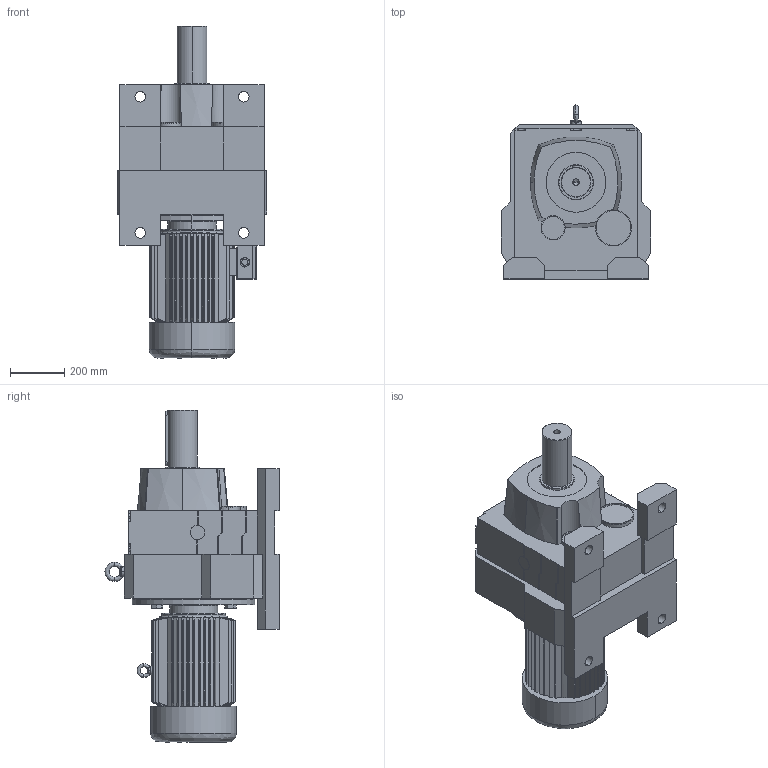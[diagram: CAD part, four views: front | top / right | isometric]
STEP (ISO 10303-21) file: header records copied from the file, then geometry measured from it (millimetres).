
FILE_DESCRIPTION (( 'STEP AP214' ), '1' );
FILE_NAME ('MR147.step', '2020-06-27T03:16:28', ( '' ), ( '' ), 'SwSTEP 2.0', 'SolidWorks 2016', '' );
FILE_SCHEMA (( 'AUTOMOTIVE_DESIGN' ));
Length unit declared in the file: millimetre
Products named in the file (1): MR147
Bounding box: 548 x 640.12 x 1220 mm (x, y, z)
Volume: 142910916.8 mm3; surface area: 3414684.2 mm2
Topology: 3 solids, 3 shells, 936 faces, 2424 edges, 1536 vertices
Faces by surface type: plane 513, cone 164, bspline 130, cylinder 129
Entity records: 43368 total; most frequent: CARTESIAN_POINT 11495, ORIENTED_EDGE 4828, DIRECTION 3911, EDGE_CURVE 2414, VERTEX_POINT 1536, LINE 1315, VECTOR 1315, AXIS2_PLACEMENT_3D 1298
